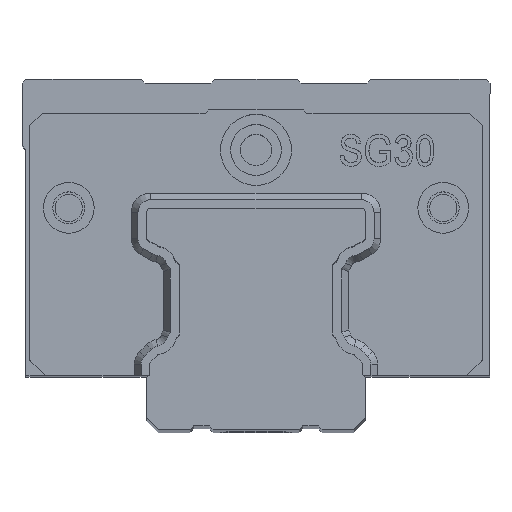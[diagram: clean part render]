
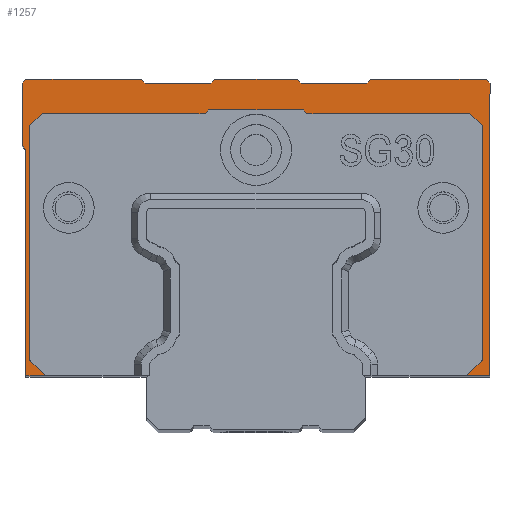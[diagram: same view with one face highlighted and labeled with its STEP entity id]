
A CAD part, top view. The second image highlights one B-rep face of the part: STEP entity #1257.
In plain terms, the highlighted planar face has unit normal (0, 0, 1).
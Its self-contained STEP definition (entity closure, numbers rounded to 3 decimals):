
#846=FACE_OUTER_BOUND('',#3511,.T.);
#1257=ADVANCED_FACE('',(#846),#1696,.F.);
#1696=PLANE('',#8907);
#2010=LINE('',#11896,#2639);
#2011=LINE('',#11899,#2640);
#2012=LINE('',#11901,#2641);
#2013=LINE('',#11903,#2642);
#2014=LINE('',#11905,#2643);
#2015=LINE('',#11907,#2644);
#2016=LINE('',#11909,#2645);
#2017=LINE('',#11911,#2646);
#2018=LINE('',#11913,#2647);
#2019=LINE('',#11915,#2648);
#2020=LINE('',#11917,#2649);
#2021=LINE('',#11919,#2650);
#2022=LINE('',#11921,#2651);
#2023=LINE('',#11923,#2652);
#2024=LINE('',#11925,#2653);
#2025=LINE('',#11927,#2654);
#2026=LINE('',#11929,#2655);
#2027=LINE('',#11931,#2656);
#2028=LINE('',#11933,#2657);
#2029=LINE('',#11935,#2658);
#2030=LINE('',#11937,#2659);
#2031=LINE('',#11939,#2660);
#2032=LINE('',#11941,#2661);
#2033=LINE('',#11943,#2662);
#2034=LINE('',#11945,#2663);
#2035=LINE('',#11947,#2664);
#2036=LINE('',#11949,#2665);
#2037=LINE('',#11951,#2666);
#2639=VECTOR('',#9842,1.);
#2640=VECTOR('',#9843,1.);
#2641=VECTOR('',#9844,1.);
#2642=VECTOR('',#9845,1.);
#2643=VECTOR('',#9846,1.);
#2644=VECTOR('',#9847,1.);
#2645=VECTOR('',#9848,1.);
#2646=VECTOR('',#9849,1.);
#2647=VECTOR('',#9850,1.);
#2648=VECTOR('',#9851,1.);
#2649=VECTOR('',#9852,1.);
#2650=VECTOR('',#9853,1.);
#2651=VECTOR('',#9854,1.);
#2652=VECTOR('',#9855,1.);
#2653=VECTOR('',#9856,1.);
#2654=VECTOR('',#9857,1.);
#2655=VECTOR('',#9858,1.);
#2656=VECTOR('',#9859,1.);
#2657=VECTOR('',#9860,1.);
#2658=VECTOR('',#9861,1.);
#2659=VECTOR('',#9862,1.);
#2660=VECTOR('',#9863,1.);
#2661=VECTOR('',#9864,1.);
#2662=VECTOR('',#9865,1.);
#2663=VECTOR('',#9866,1.);
#2664=VECTOR('',#9867,1.);
#2665=VECTOR('',#9868,1.);
#2666=VECTOR('',#9869,1.);
#3511=EDGE_LOOP('',(#4399,#4400,#4401,#4402,#4403,#4404,#4405,#4406,#4407,
#4408,#4409,#4410,#4411,#4412,#4413,#4414,#4415,#4416,#4417,#4418,#4419,
#4420,#4421,#4422,#4423,#4424,#4425,#4426));
#4399=ORIENTED_EDGE('',*,*,#7478,.T.);
#4400=ORIENTED_EDGE('',*,*,#7479,.T.);
#4401=ORIENTED_EDGE('',*,*,#7480,.T.);
#4402=ORIENTED_EDGE('',*,*,#7481,.T.);
#4403=ORIENTED_EDGE('',*,*,#7482,.T.);
#4404=ORIENTED_EDGE('',*,*,#7483,.F.);
#4405=ORIENTED_EDGE('',*,*,#7484,.F.);
#4406=ORIENTED_EDGE('',*,*,#7485,.F.);
#4407=ORIENTED_EDGE('',*,*,#7486,.T.);
#4408=ORIENTED_EDGE('',*,*,#7487,.T.);
#4409=ORIENTED_EDGE('',*,*,#7488,.T.);
#4410=ORIENTED_EDGE('',*,*,#7489,.T.);
#4411=ORIENTED_EDGE('',*,*,#7490,.T.);
#4412=ORIENTED_EDGE('',*,*,#7491,.T.);
#4413=ORIENTED_EDGE('',*,*,#7492,.T.);
#4414=ORIENTED_EDGE('',*,*,#7493,.T.);
#4415=ORIENTED_EDGE('',*,*,#7494,.T.);
#4416=ORIENTED_EDGE('',*,*,#7495,.T.);
#4417=ORIENTED_EDGE('',*,*,#7496,.T.);
#4418=ORIENTED_EDGE('',*,*,#7497,.T.);
#4419=ORIENTED_EDGE('',*,*,#7498,.T.);
#4420=ORIENTED_EDGE('',*,*,#7499,.T.);
#4421=ORIENTED_EDGE('',*,*,#7500,.T.);
#4422=ORIENTED_EDGE('',*,*,#7501,.T.);
#4423=ORIENTED_EDGE('',*,*,#7502,.T.);
#4424=ORIENTED_EDGE('',*,*,#7503,.T.);
#4425=ORIENTED_EDGE('',*,*,#7504,.T.);
#4426=ORIENTED_EDGE('',*,*,#7505,.F.);
#6584=VERTEX_POINT('',#11897);
#6585=VERTEX_POINT('',#11898);
#6586=VERTEX_POINT('',#11900);
#6587=VERTEX_POINT('',#11902);
#6588=VERTEX_POINT('',#11904);
#6589=VERTEX_POINT('',#11906);
#6590=VERTEX_POINT('',#11908);
#6591=VERTEX_POINT('',#11910);
#6592=VERTEX_POINT('',#11912);
#6593=VERTEX_POINT('',#11914);
#6594=VERTEX_POINT('',#11916);
#6595=VERTEX_POINT('',#11918);
#6596=VERTEX_POINT('',#11920);
#6597=VERTEX_POINT('',#11922);
#6598=VERTEX_POINT('',#11924);
#6599=VERTEX_POINT('',#11926);
#6600=VERTEX_POINT('',#11928);
#6601=VERTEX_POINT('',#11930);
#6602=VERTEX_POINT('',#11932);
#6603=VERTEX_POINT('',#11934);
#6604=VERTEX_POINT('',#11936);
#6605=VERTEX_POINT('',#11938);
#6606=VERTEX_POINT('',#11940);
#6607=VERTEX_POINT('',#11942);
#6608=VERTEX_POINT('',#11944);
#6609=VERTEX_POINT('',#11946);
#6610=VERTEX_POINT('',#11948);
#6611=VERTEX_POINT('',#11950);
#7478=EDGE_CURVE('',#6584,#6585,#2010,.T.);
#7479=EDGE_CURVE('',#6585,#6586,#2011,.T.);
#7480=EDGE_CURVE('',#6586,#6587,#2012,.T.);
#7481=EDGE_CURVE('',#6587,#6588,#2013,.T.);
#7482=EDGE_CURVE('',#6588,#6589,#2014,.T.);
#7483=EDGE_CURVE('',#6590,#6589,#2015,.T.);
#7484=EDGE_CURVE('',#6591,#6590,#2016,.T.);
#7485=EDGE_CURVE('',#6592,#6591,#2017,.T.);
#7486=EDGE_CURVE('',#6592,#6593,#2018,.T.);
#7487=EDGE_CURVE('',#6593,#6594,#2019,.T.);
#7488=EDGE_CURVE('',#6594,#6595,#2020,.T.);
#7489=EDGE_CURVE('',#6595,#6596,#2021,.T.);
#7490=EDGE_CURVE('',#6596,#6597,#2022,.T.);
#7491=EDGE_CURVE('',#6597,#6598,#2023,.T.);
#7492=EDGE_CURVE('',#6598,#6599,#2024,.T.);
#7493=EDGE_CURVE('',#6599,#6600,#2025,.T.);
#7494=EDGE_CURVE('',#6600,#6601,#2026,.T.);
#7495=EDGE_CURVE('',#6601,#6602,#2027,.T.);
#7496=EDGE_CURVE('',#6602,#6603,#2028,.T.);
#7497=EDGE_CURVE('',#6603,#6604,#2029,.T.);
#7498=EDGE_CURVE('',#6604,#6605,#2030,.T.);
#7499=EDGE_CURVE('',#6605,#6606,#2031,.T.);
#7500=EDGE_CURVE('',#6606,#6607,#2032,.T.);
#7501=EDGE_CURVE('',#6607,#6608,#2033,.T.);
#7502=EDGE_CURVE('',#6608,#6609,#2034,.T.);
#7503=EDGE_CURVE('',#6609,#6610,#2035,.T.);
#7504=EDGE_CURVE('',#6610,#6611,#2036,.T.);
#7505=EDGE_CURVE('',#6584,#6611,#2037,.T.);
#8907=AXIS2_PLACEMENT_3D('',#11952,#9870,#9871);
#9842=DIRECTION('',(1.,0.,0.));
#9843=DIRECTION('',(-0.707,0.707,0.));
#9844=DIRECTION('',(0.,1.,0.));
#9845=DIRECTION('',(0.707,0.707,0.));
#9846=DIRECTION('',(1.,0.,0.));
#9847=DIRECTION('',(-0.707,-0.707,0.));
#9848=DIRECTION('',(-1.,0.,0.));
#9849=DIRECTION('',(-0.707,0.707,0.));
#9850=DIRECTION('',(1.,0.,0.));
#9851=DIRECTION('',(0.707,-0.707,0.));
#9852=DIRECTION('',(0.,-1.,0.));
#9853=DIRECTION('',(-0.707,-0.707,0.));
#9854=DIRECTION('',(1.,0.,0.));
#9855=DIRECTION('',(0.,1.,0.));
#9856=DIRECTION('',(-0.707,0.707,0.));
#9857=DIRECTION('',(-1.,0.,0.));
#9858=DIRECTION('',(-0.707,-0.707,0.));
#9859=DIRECTION('',(-1.,0.,0.));
#9860=DIRECTION('',(-0.707,0.707,0.));
#9861=DIRECTION('',(-1.,0.,0.));
#9862=DIRECTION('',(-0.707,-0.707,0.));
#9863=DIRECTION('',(-1.,0.,0.));
#9864=DIRECTION('',(-0.707,0.707,0.));
#9865=DIRECTION('',(-1.,0.,0.));
#9866=DIRECTION('',(-0.707,-0.707,0.));
#9867=DIRECTION('',(0.,-1.,0.));
#9868=DIRECTION('',(0.707,-0.707,0.));
#9869=DIRECTION('',(0.,1.,0.));
#9870=DIRECTION('',(0.,0.,-1.));
#9871=DIRECTION('',(1.,0.,0.));
#11896=CARTESIAN_POINT('',(-38.91,-12.975,244.7));
#11897=CARTESIAN_POINT('',(-38.91,-12.975,244.7));
#11898=CARTESIAN_POINT('',(-36.408,-12.975,244.7));
#11899=CARTESIAN_POINT('',(-5.458,-43.924,244.7));
#11900=CARTESIAN_POINT('',(-38.41,-10.974,244.7));
#11901=CARTESIAN_POINT('',(-38.41,-14.875,244.7));
#11902=CARTESIAN_POINT('',(-38.41,19.026,244.7));
#11903=CARTESIAN_POINT('',(-24.36,33.076,244.7));
#11904=CARTESIAN_POINT('',(-36.826,20.61,244.7));
#11905=CARTESIAN_POINT('',(23.59,20.61,244.7));
#11906=CARTESIAN_POINT('',(-15.944,20.61,244.7));
#11907=CARTESIAN_POINT('',(-13.92,22.635,244.7));
#11908=CARTESIAN_POINT('',(-15.444,21.11,244.7));
#11909=CARTESIAN_POINT('',(23.59,21.11,244.7));
#11910=CARTESIAN_POINT('',(-3.375,21.11,244.7));
#11911=CARTESIAN_POINT('',(28.1,-10.366,244.7));
#11912=CARTESIAN_POINT('',(-2.875,20.61,244.7));
#11913=CARTESIAN_POINT('',(23.591,20.61,244.7));
#11914=CARTESIAN_POINT('',(18.007,20.61,244.7));
#11915=CARTESIAN_POINT('',(38.541,0.075,244.7));
#11916=CARTESIAN_POINT('',(19.59,19.026,244.7));
#11917=CARTESIAN_POINT('',(19.59,-14.875,244.7));
#11918=CARTESIAN_POINT('',(19.59,-10.974,244.7));
#11919=CARTESIAN_POINT('',(19.64,-10.924,244.7));
#11920=CARTESIAN_POINT('',(17.589,-12.975,244.7));
#11921=CARTESIAN_POINT('',(-38.91,-12.975,244.7));
#11922=CARTESIAN_POINT('',(20.59,-12.975,244.7));
#11923=CARTESIAN_POINT('',(20.59,-12.975,244.7));
#11924=CARTESIAN_POINT('',(20.59,24.525,244.7));
#11925=CARTESIAN_POINT('',(20.59,24.525,244.7));
#11926=CARTESIAN_POINT('',(20.09,25.025,244.7));
#11927=CARTESIAN_POINT('',(20.09,25.025,244.7));
#11928=CARTESIAN_POINT('',(5.29,25.025,244.7));
#11929=CARTESIAN_POINT('',(5.29,25.025,244.7));
#11930=CARTESIAN_POINT('',(4.79,24.525,244.7));
#11931=CARTESIAN_POINT('',(4.79,24.525,244.7));
#11932=CARTESIAN_POINT('',(-3.61,24.525,244.7));
#11933=CARTESIAN_POINT('',(-3.61,24.525,244.7));
#11934=CARTESIAN_POINT('',(-4.11,25.025,244.7));
#11935=CARTESIAN_POINT('',(-4.11,25.025,244.7));
#11936=CARTESIAN_POINT('',(-14.71,25.025,244.7));
#11937=CARTESIAN_POINT('',(-14.71,25.025,244.7));
#11938=CARTESIAN_POINT('',(-15.21,24.525,244.7));
#11939=CARTESIAN_POINT('',(-15.21,24.525,244.7));
#11940=CARTESIAN_POINT('',(-23.61,24.525,244.7));
#11941=CARTESIAN_POINT('',(-23.61,24.525,244.7));
#11942=CARTESIAN_POINT('',(-24.11,25.025,244.7));
#11943=CARTESIAN_POINT('',(-24.11,25.025,244.7));
#11944=CARTESIAN_POINT('',(-38.91,25.025,244.7));
#11945=CARTESIAN_POINT('',(-38.91,25.025,244.7));
#11946=CARTESIAN_POINT('',(-39.41,24.525,244.7));
#11947=CARTESIAN_POINT('',(-39.41,24.525,244.7));
#11948=CARTESIAN_POINT('',(-39.41,16.525,244.7));
#11949=CARTESIAN_POINT('',(-39.41,16.525,244.7));
#11950=CARTESIAN_POINT('',(-38.91,16.025,244.7));
#11951=CARTESIAN_POINT('',(-38.91,-12.975,244.7));
#11952=CARTESIAN_POINT('',(23.59,-14.875,244.7));
